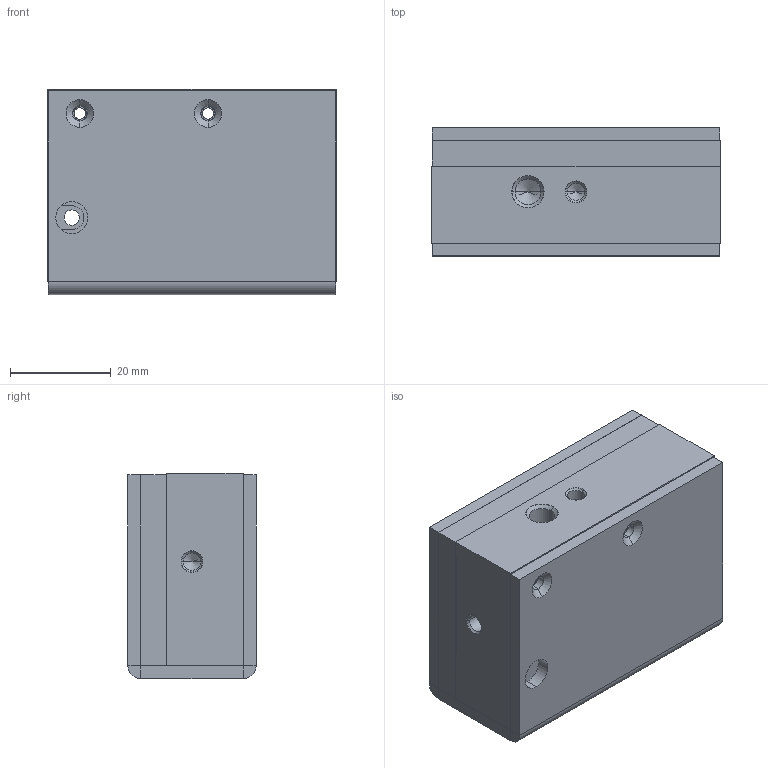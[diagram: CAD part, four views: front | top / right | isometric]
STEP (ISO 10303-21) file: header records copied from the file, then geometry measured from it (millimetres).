
FILE_DESCRIPTION((''),'2;1');
FILE_NAME('ASM_TOP_LEVEL_LASER_SHUTTER_ASM','2019-11-11T11:58:41',('gaw'),(''),'CREO PARAMETRIC BY PTC INC, 2018100','CREO PARAMETRIC BY PTC INC, 2018100','');
FILE_SCHEMA(('CONFIG_CONTROL_DESIGN'));
Length unit declared in the file: inch
Products named in the file (12): 7-01739-721_BASE_SHUTTER_HSING; DOWEL_PIN_0625_4375; DOWEL_PIN_0625_500; 0-01172_BRASS_BUSHING; 7-01739-721_BASE_SHUTTER_HSING_ASM; 7-01740-720_HOUSING_LID; 7-01781-720_COVER_HOUSING; 7-01758-701_PCB_LASER_SHUTTER; IEEE_1394; CAP_AEC_FM_25V; 7-01758-701_PCB_LASER_SHUTTER_ASM; ASM_TOP_LEVEL_LASER_SHUTTER_ASM
Assembly tree (11 placements, depth 3):
  ASM_TOP_LEVEL_LASER_SHUTTER_ASM
    7-01739-721_BASE_SHUTTER_HSING_ASM
      7-01739-721_BASE_SHUTTER_HSING
      DOWEL_PIN_0625_4375
      DOWEL_PIN_0625_500
      0-01172_BRASS_BUSHING
    7-01740-720_HOUSING_LID
    7-01781-720_COVER_HOUSING
    7-01758-701_PCB_LASER_SHUTTER_ASM
      7-01758-701_PCB_LASER_SHUTTER
      IEEE_1394
      CAP_AEC_FM_25V
Bounding box: 57.15 x 25.43 x 40.64 mm (x, y, z)
Volume: 39780.6 mm3; surface area: 35150.8 mm2
Topology: 9 solids, 20 shells, 509 faces, 1322 edges, 855 vertices
Faces by surface type: plane 237, cylinder 224, cone 44, bspline 4
Entity records: 16142 total; most frequent: DIRECTION 2899, CARTESIAN_POINT 2824, ORIENTED_EDGE 2580, EDGE_CURVE 1312, AXIS2_PLACEMENT_3D 1051, VERTEX_POINT 855, VECTOR 797, LINE 797
